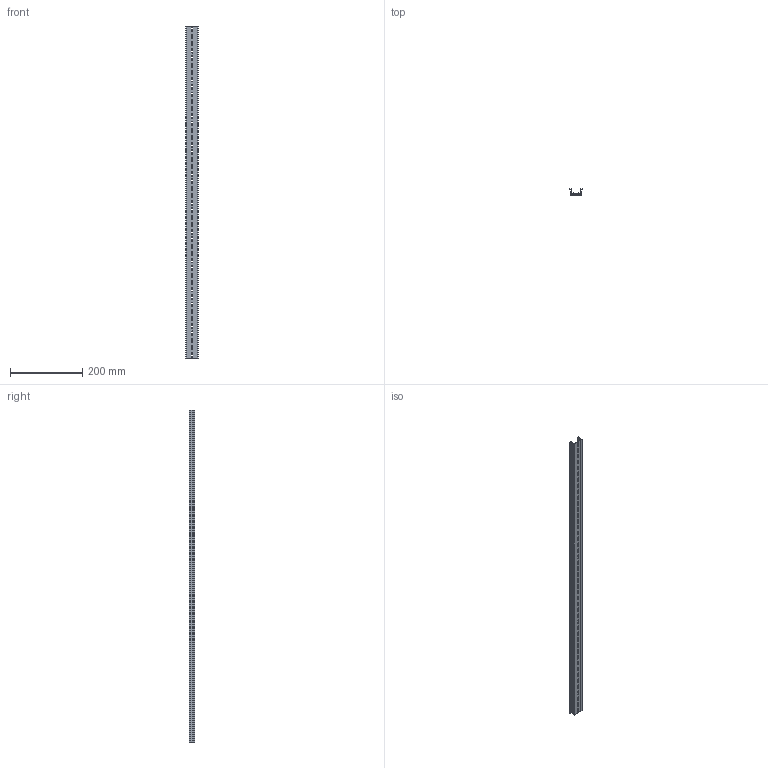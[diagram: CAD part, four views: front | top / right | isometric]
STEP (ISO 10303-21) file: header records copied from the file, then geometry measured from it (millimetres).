
FILE_DESCRIPTION(/* description */ (''),/* implementation_level */ '2;1');
FILE_NAME(/* name */ '22650-(TKB KD-46)HP 3D.stp',/* time_stamp */ '2024-12-05T14:27:34+09:00',/* author */ ('usercadg104'),/* organization */ (''),/* preprocessor_version */ 'ST-DEVELOPER v19.2',/* originating_system */ 'Autodesk Inventor 2023',/* authorisation */ '');
FILE_SCHEMA (('CONFIG_CONTROL_DESIGN'));
Length unit declared in the file: millimetre
Products named in the file (1): TKB KD-3(林)
Bounding box: 35 x 15 x 917 mm (x, y, z)
Volume: 107290.6 mm3; surface area: 123849.4 mm2
Topology: 1 solids, 1 shells, 224 faces, 666 edges, 444 vertices
Faces by surface type: plane 128, cylinder 96
Entity records: 7769 total; most frequent: CARTESIAN_POINT 1335, ORIENTED_EDGE 1332, DIRECTION 1308, EDGE_CURVE 666, LINE 474, VECTOR 474, VERTEX_POINT 444, AXIS2_PLACEMENT_3D 417
